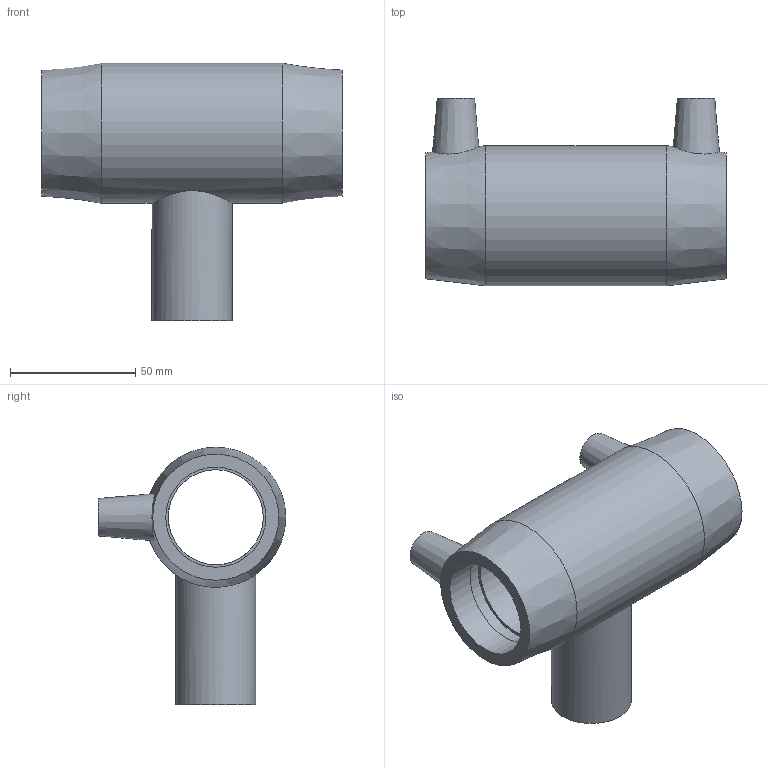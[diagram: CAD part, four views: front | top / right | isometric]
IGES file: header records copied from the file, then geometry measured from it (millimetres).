
Global section: file name: 491404040032.ipt; native system: Autodesk Inventor 2015; preprocessor: unknown; author: KIM; date: 20171106.093839; units: millimetre
Bounding box: 120 x 75 x 103 mm (x, y, z)
Volume: 153377.2 mm3; surface area: 49500.6 mm2
Topology: 1 solids, 1 shells, 31 faces, 72 edges, 52 vertices
Faces by surface type: plane 13, revolution 10, cylinder 4, cone 4
Full cylindrical faces by diameter (mm): 4 x2, 32 x1, 56 x1
